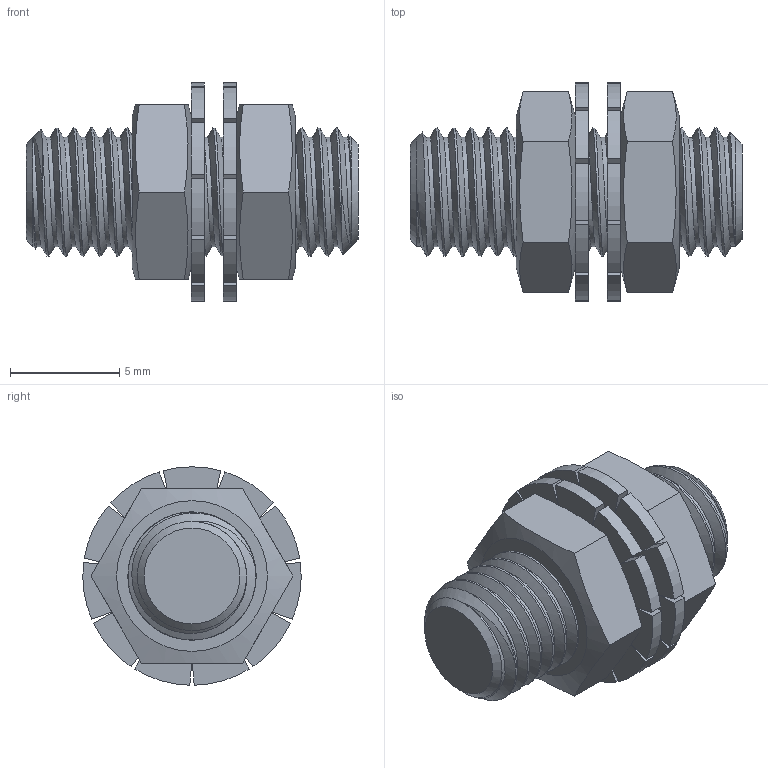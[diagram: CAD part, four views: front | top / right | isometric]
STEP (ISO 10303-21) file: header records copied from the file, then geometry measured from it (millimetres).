
FILE_DESCRIPTION (( 'STEP AP203' ), '1' );
FILE_NAME ('Bi-EG05K-X.step', '2020-07-16T17:37:50', ( '' ), ( '' ), 'SwSTEP 2.0', 'SolidWorks 2017', '' );
FILE_SCHEMA (( 'CONFIG_CONTROL_DESIGN' ));
Length unit declared in the file: millimetre
Products named in the file (1): Bi-EG05K-X
Bounding box: 15.2 x 10 x 10 mm (x, y, z)
Volume: 575.9 mm3; surface area: 769.6 mm2
Topology: 1 solids, 1 shells, 110 faces, 323 edges, 221 vertices
Faces by surface type: plane 66, cylinder 27, bspline 11, cone 6
Entity records: 12260 total; most frequent: CARTESIAN_POINT 9474, ORIENTED_EDGE 622, DIRECTION 488, EDGE_CURVE 311, VERTEX_POINT 215, LINE 166, VECTOR 166, AXIS2_PLACEMENT_3D 161
